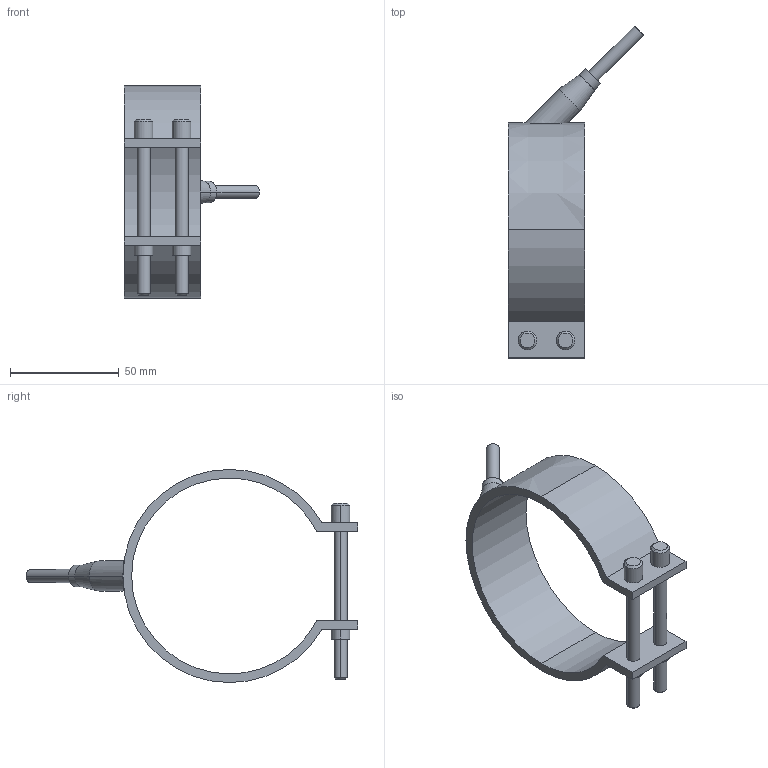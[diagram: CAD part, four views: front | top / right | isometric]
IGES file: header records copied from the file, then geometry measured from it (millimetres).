
Start section: START RECORD GO HERE.
Global section: file name: 29090035.igs; native system: DASSAULT SYSTEMES CATIA V5 R20 - www.3ds.com; preprocessor: CATIA Version 5 Release 20 ; author: Utente; organization: NB04-ASUS; date: 20210329.200004; units: millimetre
Bounding box: 62.05 x 152.55 x 98 mm (x, y, z)
Surface area: 26881.3 mm2 (no closed solid volume)
Topology: 0 solids, 0 shells, 54 faces, 246 edges, 246 vertices
Faces by surface type: revolution 38, plane 16
